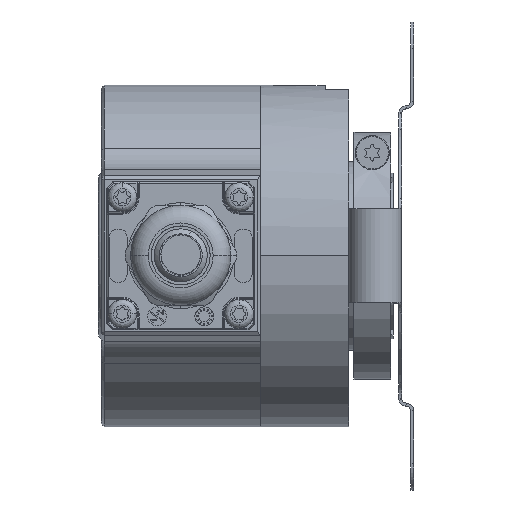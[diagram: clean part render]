
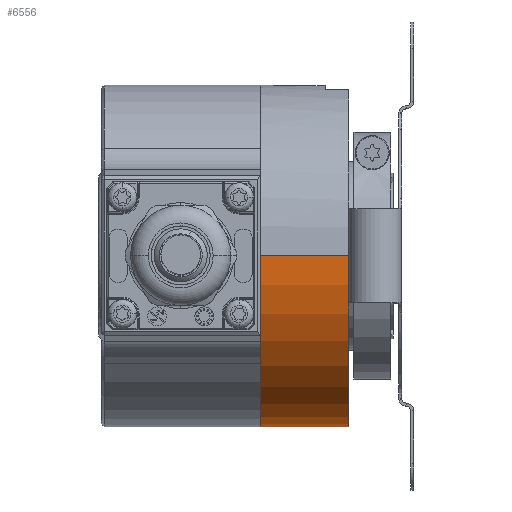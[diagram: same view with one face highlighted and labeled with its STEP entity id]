
A CAD part, top view. The second image highlights one B-rep face of the part: STEP entity #6556.
In plain terms, the highlighted cylindrical face has radius 29 mm (diameter 58 mm), a partial arc.
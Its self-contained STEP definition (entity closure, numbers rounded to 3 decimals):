
#673 = LINE ( 'NONE', #10110, #22832 ) ;
#918 = DIRECTION ( 'NONE',  ( -1., 0., 0. ) ) ;
#2535 = ORIENTED_EDGE ( 'NONE', *, *, #24782, .F. ) ;
#2666 = CARTESIAN_POINT ( 'NONE',  ( -21.996, 0., 29. ) ) ;
#2696 = DIRECTION ( 'NONE',  ( 0., 0., 1. ) ) ;
#2959 = CARTESIAN_POINT ( 'NONE',  ( -21.996, 0., 0. ) ) ;
#5704 = EDGE_CURVE ( 'NONE', #23040, #11626, #18002, .T. ) ;
#6556 = ADVANCED_FACE ( 'NONE', ( #12358 ), #15894, .T. ) ;
#7806 = DIRECTION ( 'NONE',  ( -1., 0., 0. ) ) ;
#7867 = AXIS2_PLACEMENT_3D ( 'NONE', #14979, #20528, #15099 ) ;
#7971 = DIRECTION ( 'NONE',  ( -1., 0., 0. ) ) ;
#8002 = AXIS2_PLACEMENT_3D ( 'NONE', #22851, #7806, #9447 ) ;
#8603 = EDGE_LOOP ( 'NONE', ( #2535, #16933, #19008, #21128 ) ) ;
#9447 = DIRECTION ( 'NONE',  ( 0., 0., 1. ) ) ;
#10110 = CARTESIAN_POINT ( 'NONE',  ( -21.996, 0., -29. ) ) ;
#11178 = AXIS2_PLACEMENT_3D ( 'NONE', #2959, #21804, #2696 ) ;
#11626 = VERTEX_POINT ( 'NONE', #20635 ) ;
#12358 = FACE_OUTER_BOUND ( 'NONE', #8603, .T. ) ;
#14791 = CARTESIAN_POINT ( 'NONE',  ( 0., 0., -29. ) ) ;
#14979 = CARTESIAN_POINT ( 'NONE',  ( 15., 0., 0. ) ) ;
#15099 = DIRECTION ( 'NONE',  ( 0., 0., 1. ) ) ;
#15894 = CYLINDRICAL_SURFACE ( 'NONE', #11178, 29. ) ;
#16933 = ORIENTED_EDGE ( 'NONE', *, *, #18283, .T. ) ;
#18002 = LINE ( 'NONE', #2666, #20365 ) ;
#18274 = CIRCLE ( 'NONE', #7867, 29. ) ;
#18283 = EDGE_CURVE ( 'NONE', #24641, #23040, #18274, .T. ) ;
#18777 = CARTESIAN_POINT ( 'NONE',  ( 15., 0., -29. ) ) ;
#19008 = ORIENTED_EDGE ( 'NONE', *, *, #5704, .T. ) ;
#19922 = VERTEX_POINT ( 'NONE', #14791 ) ;
#20365 = VECTOR ( 'NONE', #918, 1000. ) ;
#20419 = CIRCLE ( 'NONE', #8002, 29. ) ;
#20528 = DIRECTION ( 'NONE',  ( -1., 0., 0. ) ) ;
#20635 = CARTESIAN_POINT ( 'NONE',  ( 0., 0., 29. ) ) ;
#20968 = EDGE_CURVE ( 'NONE', #19922, #11626, #20419, .T. ) ;
#21128 = ORIENTED_EDGE ( 'NONE', *, *, #20968, .F. ) ;
#21804 = DIRECTION ( 'NONE',  ( -1., 0., 0. ) ) ;
#22832 = VECTOR ( 'NONE', #7971, 1000. ) ;
#22851 = CARTESIAN_POINT ( 'NONE',  ( 0., 0., 0. ) ) ;
#23040 = VERTEX_POINT ( 'NONE', #23172 ) ;
#23172 = CARTESIAN_POINT ( 'NONE',  ( 15., 0., 29. ) ) ;
#24641 = VERTEX_POINT ( 'NONE', #18777 ) ;
#24782 = EDGE_CURVE ( 'NONE', #24641, #19922, #673, .T. ) ;
